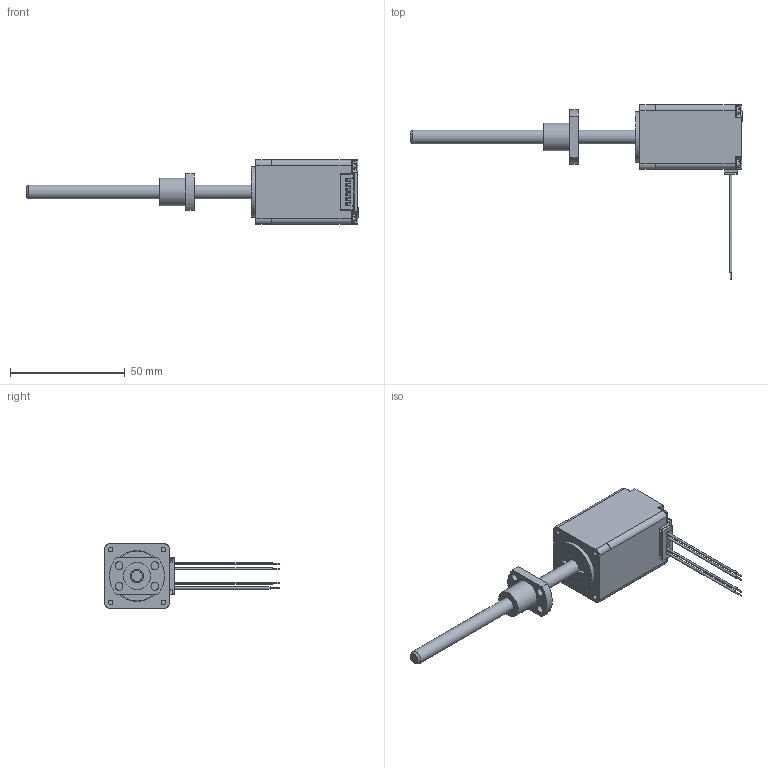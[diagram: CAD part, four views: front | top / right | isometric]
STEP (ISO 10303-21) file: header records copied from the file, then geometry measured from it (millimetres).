
FILE_DESCRIPTION( ('This file contains a STEP AP42 implementation' ,'as created by ZW3D STEP Interface translator.' ,'') ,'2;1' );
FILE_NAME( '28EC4X-2.1-XXX-B_潠趙婦釐.stp' ,'26 1 4.13 724', (''), ('ZWCAD Software Co.'), 'Version 1.0', 'ZW3D to STEP translator', '' );
FILE_SCHEMA(('AUTOMOTIVE_DESIGN { 1 0 10303 214 1 1 1 1 }'));
Length unit declared in the file: millimetre
Products named in the file (1): 0
Bounding box: 144.5 x 75.9 x 28 mm (x, y, z)
Volume: 19084.2 mm3; surface area: 20464.6 mm2
Topology: 9 solids, 9 shells, 810 faces, 2177 edges, 1395 vertices
Faces by surface type: plane 560, cylinder 208, torus 16, bspline 13, sphere 8, cone 5
Full cylindrical faces by diameter (mm): 0.5 x8, 1 x2, 1.4 x8, 2.05 x4, 2.8 x4, 3 x4, 3.4 x4, 4.2 x1, 6 x3, 7 x1, 7.11 x1, 8.5 x1, 12 x1, 14 x2, 16.9 x1, 22 x1, 24.081 x1, 24.528 x1
Entity records: 26446 total; most frequent: CARTESIAN_POINT 5006, ORIENTED_EDGE 4354, DIRECTION 4243, EDGE_CURVE 2177, VECTOR 1495, LINE 1495, VERTEX_POINT 1395, AXIS2_PLACEMENT_3D 1374
